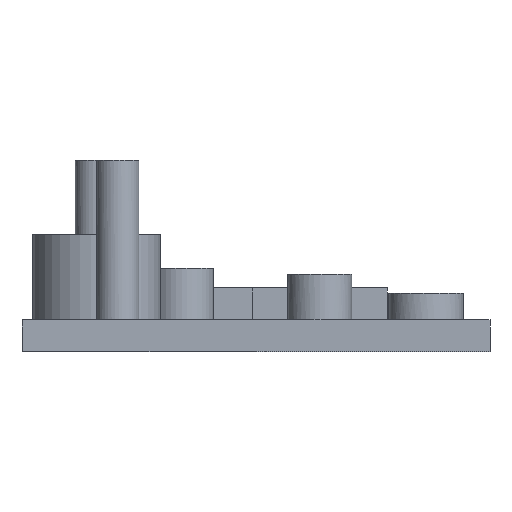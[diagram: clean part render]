
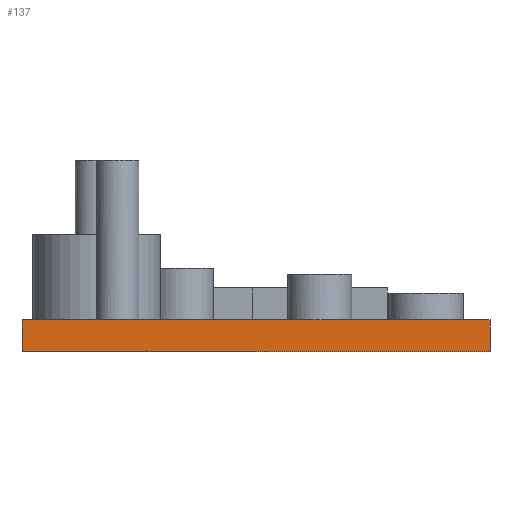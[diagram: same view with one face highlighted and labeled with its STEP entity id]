
A CAD part, front view. The second image highlights one B-rep face of the part: STEP entity #137.
In plain terms, the highlighted planar face has unit normal (0, -1, 0).
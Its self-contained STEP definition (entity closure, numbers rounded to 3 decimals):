
#21 = EDGE_CURVE('',#22,#24,#26,.T.);
#22 = VERTEX_POINT('',#23);
#23 = CARTESIAN_POINT('',(-51.,-48.,6.));
#24 = VERTEX_POINT('',#25);
#25 = CARTESIAN_POINT('',(-51.,-48.,9.));
#26 = SURFACE_CURVE('',#27,(#31,#43),.PCURVE_S1.);
#27 = LINE('',#28,#29);
#28 = CARTESIAN_POINT('',(-51.,-48.,6.));
#29 = VECTOR('',#30,1.);
#30 = DIRECTION('',(0.,0.,1.));
#31 = PCURVE('',#32,#37);
#32 = PLANE('',#33);
#33 = AXIS2_PLACEMENT_3D('',#34,#35,#36);
#34 = CARTESIAN_POINT('',(-51.,-48.,6.));
#35 = DIRECTION('',(1.,0.,0.));
#36 = DIRECTION('',(0.,0.,1.));
#37 = DEFINITIONAL_REPRESENTATION('',(#38),#42);
#38 = LINE('',#39,#40);
#39 = CARTESIAN_POINT('',(0.,0.));
#40 = VECTOR('',#41,1.);
#41 = DIRECTION('',(1.,0.));
#42 = ( GEOMETRIC_REPRESENTATION_CONTEXT(2) 
PARAMETRIC_REPRESENTATION_CONTEXT() REPRESENTATION_CONTEXT('2D SPACE',''
  ) );
#43 = PCURVE('',#44,#49);
#44 = PLANE('',#45);
#45 = AXIS2_PLACEMENT_3D('',#46,#47,#48);
#46 = CARTESIAN_POINT('',(-51.,-48.,6.));
#47 = DIRECTION('',(0.,1.,0.));
#48 = DIRECTION('',(0.,0.,1.));
#49 = DEFINITIONAL_REPRESENTATION('',(#50),#54);
#50 = LINE('',#51,#52);
#51 = CARTESIAN_POINT('',(0.,0.));
#52 = VECTOR('',#53,1.);
#53 = DIRECTION('',(1.,0.));
#54 = ( GEOMETRIC_REPRESENTATION_CONTEXT(2) 
PARAMETRIC_REPRESENTATION_CONTEXT() REPRESENTATION_CONTEXT('2D SPACE',''
  ) );
#72 = PLANE('',#73);
#73 = AXIS2_PLACEMENT_3D('',#74,#75,#76);
#74 = CARTESIAN_POINT('',(-51.,-48.,6.));
#75 = DIRECTION('',(0.,0.,1.));
#76 = DIRECTION('',(1.,0.,0.));
#126 = PLANE('',#127);
#127 = AXIS2_PLACEMENT_3D('',#128,#129,#130);
#128 = CARTESIAN_POINT('',(-51.,-48.,9.));
#129 = DIRECTION('',(0.,0.,1.));
#130 = DIRECTION('',(1.,0.,0.));
#137 = ADVANCED_FACE('',(#138),#44,.F.);
#138 = FACE_BOUND('',#139,.F.);
#139 = EDGE_LOOP('',(#140,#163,#164,#187,#215,#238));
#140 = ORIENTED_EDGE('',*,*,#141,.F.);
#141 = EDGE_CURVE('',#22,#142,#144,.T.);
#142 = VERTEX_POINT('',#143);
#143 = CARTESIAN_POINT('',(-7.,-48.,6.));
#144 = SURFACE_CURVE('',#145,(#149,#156),.PCURVE_S1.);
#145 = LINE('',#146,#147);
#146 = CARTESIAN_POINT('',(-51.,-48.,6.));
#147 = VECTOR('',#148,1.);
#148 = DIRECTION('',(1.,0.,0.));
#149 = PCURVE('',#44,#150);
#150 = DEFINITIONAL_REPRESENTATION('',(#151),#155);
#151 = LINE('',#152,#153);
#152 = CARTESIAN_POINT('',(0.,0.));
#153 = VECTOR('',#154,1.);
#154 = DIRECTION('',(0.,1.));
#155 = ( GEOMETRIC_REPRESENTATION_CONTEXT(2) 
PARAMETRIC_REPRESENTATION_CONTEXT() REPRESENTATION_CONTEXT('2D SPACE',''
  ) );
#156 = PCURVE('',#72,#157);
#157 = DEFINITIONAL_REPRESENTATION('',(#158),#162);
#158 = LINE('',#159,#160);
#159 = CARTESIAN_POINT('',(0.,0.));
#160 = VECTOR('',#161,1.);
#161 = DIRECTION('',(1.,0.));
#162 = ( GEOMETRIC_REPRESENTATION_CONTEXT(2) 
PARAMETRIC_REPRESENTATION_CONTEXT() REPRESENTATION_CONTEXT('2D SPACE',''
  ) );
#163 = ORIENTED_EDGE('',*,*,#21,.T.);
#164 = ORIENTED_EDGE('',*,*,#165,.T.);
#165 = EDGE_CURVE('',#24,#166,#168,.T.);
#166 = VERTEX_POINT('',#167);
#167 = CARTESIAN_POINT('',(-24.308,-48.,9.));
#168 = SURFACE_CURVE('',#169,(#173,#180),.PCURVE_S1.);
#169 = LINE('',#170,#171);
#170 = CARTESIAN_POINT('',(-51.,-48.,9.));
#171 = VECTOR('',#172,1.);
#172 = DIRECTION('',(1.,0.,0.));
#173 = PCURVE('',#44,#174);
#174 = DEFINITIONAL_REPRESENTATION('',(#175),#179);
#175 = LINE('',#176,#177);
#176 = CARTESIAN_POINT('',(3.,0.));
#177 = VECTOR('',#178,1.);
#178 = DIRECTION('',(0.,1.));
#179 = ( GEOMETRIC_REPRESENTATION_CONTEXT(2) 
PARAMETRIC_REPRESENTATION_CONTEXT() REPRESENTATION_CONTEXT('2D SPACE',''
  ) );
#180 = PCURVE('',#126,#181);
#181 = DEFINITIONAL_REPRESENTATION('',(#182),#186);
#182 = LINE('',#183,#184);
#183 = CARTESIAN_POINT('',(0.,0.));
#184 = VECTOR('',#185,1.);
#185 = DIRECTION('',(1.,0.));
#186 = ( GEOMETRIC_REPRESENTATION_CONTEXT(2) 
PARAMETRIC_REPRESENTATION_CONTEXT() REPRESENTATION_CONTEXT('2D SPACE',''
  ) );
#187 = ORIENTED_EDGE('',*,*,#188,.T.);
#188 = EDGE_CURVE('',#166,#189,#191,.T.);
#189 = VERTEX_POINT('',#190);
#190 = CARTESIAN_POINT('',(-21.692,-48.,9.));
#191 = SURFACE_CURVE('',#192,(#196,#203),.PCURVE_S1.);
#192 = LINE('',#193,#194);
#193 = CARTESIAN_POINT('',(-51.,-48.,9.));
#194 = VECTOR('',#195,1.);
#195 = DIRECTION('',(1.,0.,0.));
#196 = PCURVE('',#44,#197);
#197 = DEFINITIONAL_REPRESENTATION('',(#198),#202);
#198 = LINE('',#199,#200);
#199 = CARTESIAN_POINT('',(3.,0.));
#200 = VECTOR('',#201,1.);
#201 = DIRECTION('',(0.,1.));
#202 = ( GEOMETRIC_REPRESENTATION_CONTEXT(2) 
PARAMETRIC_REPRESENTATION_CONTEXT() REPRESENTATION_CONTEXT('2D SPACE',''
  ) );
#203 = PCURVE('',#204,#209);
#204 = PLANE('',#205);
#205 = AXIS2_PLACEMENT_3D('',#206,#207,#208);
#206 = CARTESIAN_POINT('',(-23.,-45.3,9.));
#207 = DIRECTION('',(0.,0.,1.));
#208 = DIRECTION('',(1.,0.,-0.));
#209 = DEFINITIONAL_REPRESENTATION('',(#210),#214);
#210 = LINE('',#211,#212);
#211 = CARTESIAN_POINT('',(-28.,-2.7));
#212 = VECTOR('',#213,1.);
#213 = DIRECTION('',(1.,0.));
#214 = ( GEOMETRIC_REPRESENTATION_CONTEXT(2) 
PARAMETRIC_REPRESENTATION_CONTEXT() REPRESENTATION_CONTEXT('2D SPACE',''
  ) );
#215 = ORIENTED_EDGE('',*,*,#216,.T.);
#216 = EDGE_CURVE('',#189,#217,#219,.T.);
#217 = VERTEX_POINT('',#218);
#218 = CARTESIAN_POINT('',(-7.,-48.,9.));
#219 = SURFACE_CURVE('',#220,(#224,#231),.PCURVE_S1.);
#220 = LINE('',#221,#222);
#221 = CARTESIAN_POINT('',(-51.,-48.,9.));
#222 = VECTOR('',#223,1.);
#223 = DIRECTION('',(1.,0.,0.));
#224 = PCURVE('',#44,#225);
#225 = DEFINITIONAL_REPRESENTATION('',(#226),#230);
#226 = LINE('',#227,#228);
#227 = CARTESIAN_POINT('',(3.,0.));
#228 = VECTOR('',#229,1.);
#229 = DIRECTION('',(0.,1.));
#230 = ( GEOMETRIC_REPRESENTATION_CONTEXT(2) 
PARAMETRIC_REPRESENTATION_CONTEXT() REPRESENTATION_CONTEXT('2D SPACE',''
  ) );
#231 = PCURVE('',#126,#232);
#232 = DEFINITIONAL_REPRESENTATION('',(#233),#237);
#233 = LINE('',#234,#235);
#234 = CARTESIAN_POINT('',(0.,0.));
#235 = VECTOR('',#236,1.);
#236 = DIRECTION('',(1.,0.));
#237 = ( GEOMETRIC_REPRESENTATION_CONTEXT(2) 
PARAMETRIC_REPRESENTATION_CONTEXT() REPRESENTATION_CONTEXT('2D SPACE',''
  ) );
#238 = ORIENTED_EDGE('',*,*,#239,.F.);
#239 = EDGE_CURVE('',#142,#217,#240,.T.);
#240 = SURFACE_CURVE('',#241,(#245,#252),.PCURVE_S1.);
#241 = LINE('',#242,#243);
#242 = CARTESIAN_POINT('',(-7.,-48.,6.));
#243 = VECTOR('',#244,1.);
#244 = DIRECTION('',(0.,0.,1.));
#245 = PCURVE('',#44,#246);
#246 = DEFINITIONAL_REPRESENTATION('',(#247),#251);
#247 = LINE('',#248,#249);
#248 = CARTESIAN_POINT('',(0.,44.));
#249 = VECTOR('',#250,1.);
#250 = DIRECTION('',(1.,0.));
#251 = ( GEOMETRIC_REPRESENTATION_CONTEXT(2) 
PARAMETRIC_REPRESENTATION_CONTEXT() REPRESENTATION_CONTEXT('2D SPACE',''
  ) );
#252 = PCURVE('',#253,#258);
#253 = PLANE('',#254);
#254 = AXIS2_PLACEMENT_3D('',#255,#256,#257);
#255 = CARTESIAN_POINT('',(-7.,-48.,6.));
#256 = DIRECTION('',(1.,0.,0.));
#257 = DIRECTION('',(0.,0.,1.));
#258 = DEFINITIONAL_REPRESENTATION('',(#259),#263);
#259 = LINE('',#260,#261);
#260 = CARTESIAN_POINT('',(0.,0.));
#261 = VECTOR('',#262,1.);
#262 = DIRECTION('',(1.,0.));
#263 = ( GEOMETRIC_REPRESENTATION_CONTEXT(2) 
PARAMETRIC_REPRESENTATION_CONTEXT() REPRESENTATION_CONTEXT('2D SPACE',''
  ) );
